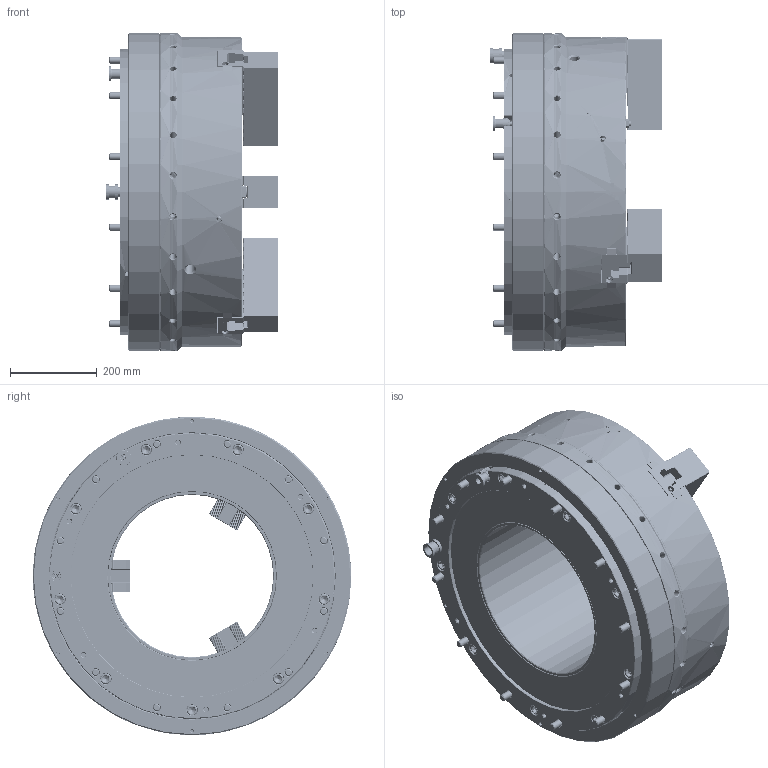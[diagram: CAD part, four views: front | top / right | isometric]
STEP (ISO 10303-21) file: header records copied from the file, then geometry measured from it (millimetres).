
FILE_DESCRIPTION (( 'STEP AP214' ), '1' );
FILE_NAME ('UPR710A375_HCL.STEP', '2025-10-15T04:35:57', ( '' ), ( '' ), 'SwSTEP 2.0', 'SolidWorks 2022', '' );
FILE_SCHEMA (( 'AUTOMOTIVE_DESIGN' ));
Length unit declared in the file: millimetre
Products named in the file (5): UPR710A375__X2_672c4f53_X0_; 61P858712; 0030124060; UPR710A375_HCL; 61P446153
Assembly tree (16 placements, depth 2):
  UPR710A375_HCL
    61P858712  x3
    61P446153  x6
    0030124060  x6
    UPR710A375__X2_672c4f53_X0_
Bounding box: 397.21 x 735 x 735 mm (x, y, z)
Volume: 84459012 mm3; surface area: 3606604.6 mm2
Topology: 17 solids, 24 shells, 10172 faces, 28204 edges, 18444 vertices
Faces by surface type: plane 5497, cylinder 2535, bspline 1179, cone 961
Entity records: 312836 total; most frequent: CARTESIAN_POINT 109637, ORIENTED_EDGE 43856, DIRECTION 33009, EDGE_CURVE 21928, VERTEX_POINT 14383, VECTOR 14317, LINE 14317, AXIS2_PLACEMENT_3D 9346
